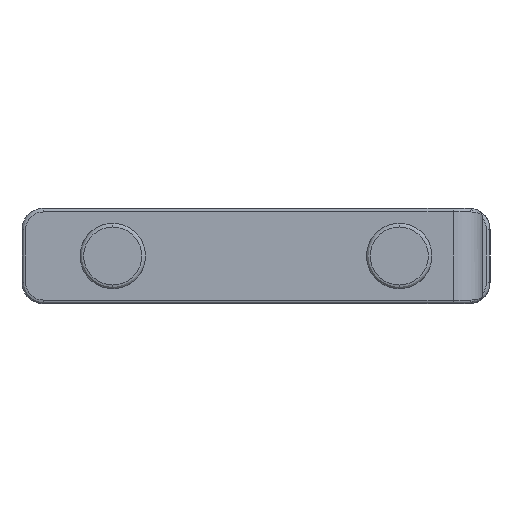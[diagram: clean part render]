
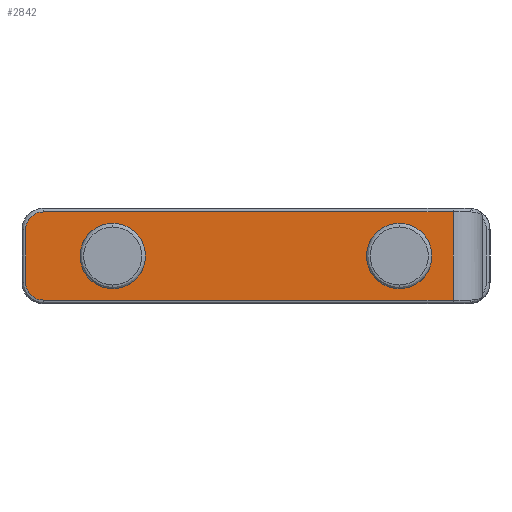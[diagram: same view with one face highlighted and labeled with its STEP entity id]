
A CAD part, left-side view. The second image highlights one B-rep face of the part: STEP entity #2842.
In plain terms, the highlighted planar face has unit normal (-1, 0, 0).
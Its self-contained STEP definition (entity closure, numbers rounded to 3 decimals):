
#210 = ORIENTED_EDGE ( 'NONE', *, *, #327, .F. ) ;
#212 = EDGE_LOOP ( 'NONE', ( #210, #260, #345, #343, #341, #332 ) ) ;
#213 = EDGE_CURVE ( 'NONE', #3152, #3144, #939, .T. ) ;
#214 = ORIENTED_EDGE ( 'NONE', *, *, #3145, .F. ) ;
#260 = ORIENTED_EDGE ( 'NONE', *, *, #261, .T. ) ;
#261 = EDGE_CURVE ( 'NONE', #328, #262, #989, .T. ) ;
#262 = VERTEX_POINT ( 'NONE', #979 ) ;
#327 = EDGE_CURVE ( 'NONE', #328, #329, #1117, .T. ) ;
#328 = VERTEX_POINT ( 'NONE', #1113 ) ;
#329 = VERTEX_POINT ( 'NONE', #1112 ) ;
#330 = VERTEX_POINT ( 'NONE', #1111 ) ;
#332 = ORIENTED_EDGE ( 'NONE', *, *, #2858, .T. ) ;
#333 = VERTEX_POINT ( 'NONE', #1110 ) ;
#336 = EDGE_CURVE ( 'NONE', #330, #337, #1109, .T. ) ;
#337 = VERTEX_POINT ( 'NONE', #1104 ) ;
#338 = EDGE_CURVE ( 'NONE', #333, #330, #586, .T. ) ;
#341 = ORIENTED_EDGE ( 'NONE', *, *, #336, .T. ) ;
#342 = EDGE_CURVE ( 'NONE', #262, #333, #1163, .T. ) ;
#343 = ORIENTED_EDGE ( 'NONE', *, *, #338, .T. ) ;
#345 = ORIENTED_EDGE ( 'NONE', *, *, #342, .T. ) ;
#584 = VECTOR ( 'NONE', #857, 1000. ) ;
#585 = CARTESIAN_POINT ( 'NONE',  ( -458.2, 31.35, -3.6 ) ) ;
#586 = LINE ( 'NONE', #585, #584 ) ;
#857 = DIRECTION ( 'NONE',  ( 0., 0., -1. ) ) ;
#935 = DIRECTION ( 'NONE',  ( 0., 0., -1. ) ) ;
#936 = DIRECTION ( 'NONE',  ( -1., 0., 0. ) ) ;
#937 = CARTESIAN_POINT ( 'NONE',  ( -458.2, 19.5, 0. ) ) ;
#938 = AXIS2_PLACEMENT_3D ( 'NONE', #937, #936, #935 ) ;
#939 = CIRCLE ( 'NONE', #938, 4.45 ) ;
#979 = CARTESIAN_POINT ( 'NONE',  ( -458.2, 28.95, 6. ) ) ;
#981 = DIRECTION ( 'NONE',  ( 0., 1., 0. ) ) ;
#982 = VECTOR ( 'NONE', #981, 1000. ) ;
#983 = CARTESIAN_POINT ( 'NONE',  ( -458.2, 28.95, 6. ) ) ;
#989 = LINE ( 'NONE', #983, #982 ) ;
#1104 = CARTESIAN_POINT ( 'NONE',  ( -458.2, 28.95, -6. ) ) ;
#1105 = DIRECTION ( 'NONE',  ( 0., 0., -1. ) ) ;
#1106 = DIRECTION ( 'NONE',  ( -1., 0., 0. ) ) ;
#1107 = CARTESIAN_POINT ( 'NONE',  ( -458.2, 28.95, -3.6 ) ) ;
#1108 = AXIS2_PLACEMENT_3D ( 'NONE', #1107, #1106, #1105 ) ;
#1109 = CIRCLE ( 'NONE', #1108, 2.4 ) ;
#1110 = CARTESIAN_POINT ( 'NONE',  ( -458.2, 31.35, 3.6 ) ) ;
#1111 = CARTESIAN_POINT ( 'NONE',  ( -458.2, 31.35, -3.6 ) ) ;
#1112 = CARTESIAN_POINT ( 'NONE',  ( -458.2, -26.82, -6. ) ) ;
#1113 = CARTESIAN_POINT ( 'NONE',  ( -458.2, -26.82, 6. ) ) ;
#1114 = DIRECTION ( 'NONE',  ( 0., 0., -1. ) ) ;
#1115 = VECTOR ( 'NONE', #1114, 1000. ) ;
#1116 = CARTESIAN_POINT ( 'NONE',  ( -458.2, -26.82, -7.5 ) ) ;
#1117 = LINE ( 'NONE', #1116, #1115 ) ;
#1159 = DIRECTION ( 'NONE',  ( 0., 0., -1. ) ) ;
#1160 = DIRECTION ( 'NONE',  ( -1., 0., 0. ) ) ;
#1161 = CARTESIAN_POINT ( 'NONE',  ( -458.2, 28.95, 3.6 ) ) ;
#1162 = AXIS2_PLACEMENT_3D ( 'NONE', #1161, #1160, #1159 ) ;
#1163 = CIRCLE ( 'NONE', #1162, 2.4 ) ;
#1668 = DIRECTION ( 'NONE',  ( 0., 0., -1. ) ) ;
#1669 = DIRECTION ( 'NONE',  ( 1., 0., 0. ) ) ;
#1670 = CARTESIAN_POINT ( 'NONE',  ( -458.2, -27.9, -2.9 ) ) ;
#1671 = AXIS2_PLACEMENT_3D ( 'NONE', #1670, #1669, #1668 ) ;
#1672 = PLANE ( 'NONE',  #1671 ) ;
#1673 = FACE_BOUND ( 'NONE', #2793, .T. ) ;
#1674 = FACE_OUTER_BOUND ( 'NONE', #212, .T. ) ;
#1675 = FACE_BOUND ( 'NONE', #2778, .T. ) ;
#1699 = DIRECTION ( 'NONE',  ( 0., -1., 0. ) ) ;
#1700 = VECTOR ( 'NONE', #1699, 1000. ) ;
#1701 = CARTESIAN_POINT ( 'NONE',  ( -458.2, -26.82, -6. ) ) ;
#1702 = LINE ( 'NONE', #1701, #1700 ) ;
#2342 = DIRECTION ( 'NONE',  ( 0., 0., -1. ) ) ;
#2343 = DIRECTION ( 'NONE',  ( -1., 0., 0. ) ) ;
#2344 = CARTESIAN_POINT ( 'NONE',  ( -458.2, 19.5, 0. ) ) ;
#2345 = AXIS2_PLACEMENT_3D ( 'NONE', #2344, #2343, #2342 ) ;
#2346 = CIRCLE ( 'NONE', #2345, 4.45 ) ;
#2347 = CARTESIAN_POINT ( 'NONE',  ( -458.2, 19.5, 4.45 ) ) ;
#2387 = DIRECTION ( 'NONE',  ( 0., 0., -1. ) ) ;
#2388 = DIRECTION ( 'NONE',  ( -1., 0., 0. ) ) ;
#2389 = CARTESIAN_POINT ( 'NONE',  ( -458.2, -19.5, 0. ) ) ;
#2390 = AXIS2_PLACEMENT_3D ( 'NONE', #2389, #2388, #2387 ) ;
#2391 = CIRCLE ( 'NONE', #2390, 4.45 ) ;
#2392 = CARTESIAN_POINT ( 'NONE',  ( -458.2, -19.5, -4.45 ) ) ;
#2393 = CARTESIAN_POINT ( 'NONE',  ( -458.2, -19.5, 4.45 ) ) ;
#2400 = CARTESIAN_POINT ( 'NONE',  ( -458.2, 19.5, -4.45 ) ) ;
#2424 = DIRECTION ( 'NONE',  ( 0., 0., -1. ) ) ;
#2425 = DIRECTION ( 'NONE',  ( -1., 0., 0. ) ) ;
#2426 = CARTESIAN_POINT ( 'NONE',  ( -458.2, -19.5, 0. ) ) ;
#2427 = AXIS2_PLACEMENT_3D ( 'NONE', #2426, #2425, #2424 ) ;
#2428 = CIRCLE ( 'NONE', #2427, 4.45 ) ;
#2777 = ORIENTED_EDGE ( 'NONE', *, *, #3178, .F. ) ;
#2778 = EDGE_LOOP ( 'NONE', ( #2843, #214 ) ) ;
#2793 = EDGE_LOOP ( 'NONE', ( #2777, #3185 ) ) ;
#2842 = ADVANCED_FACE ( 'NONE', ( #1675, #1674, #1673 ), #1672, .F. ) ;
#2843 = ORIENTED_EDGE ( 'NONE', *, *, #213, .F. ) ;
#2858 = EDGE_CURVE ( 'NONE', #337, #329, #1702, .T. ) ;
#3144 = VERTEX_POINT ( 'NONE', #2347 ) ;
#3145 = EDGE_CURVE ( 'NONE', #3144, #3152, #2346, .T. ) ;
#3152 = VERTEX_POINT ( 'NONE', #2400 ) ;
#3163 = VERTEX_POINT ( 'NONE', #2393 ) ;
#3164 = VERTEX_POINT ( 'NONE', #2392 ) ;
#3165 = EDGE_CURVE ( 'NONE', #3163, #3164, #2391, .T. ) ;
#3178 = EDGE_CURVE ( 'NONE', #3164, #3163, #2428, .T. ) ;
#3185 = ORIENTED_EDGE ( 'NONE', *, *, #3165, .F. ) ;
